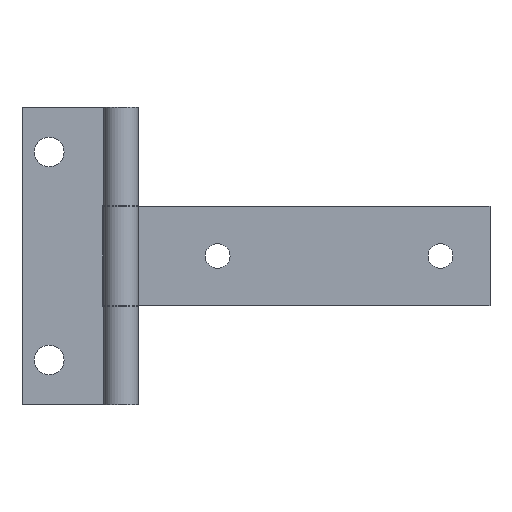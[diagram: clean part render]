
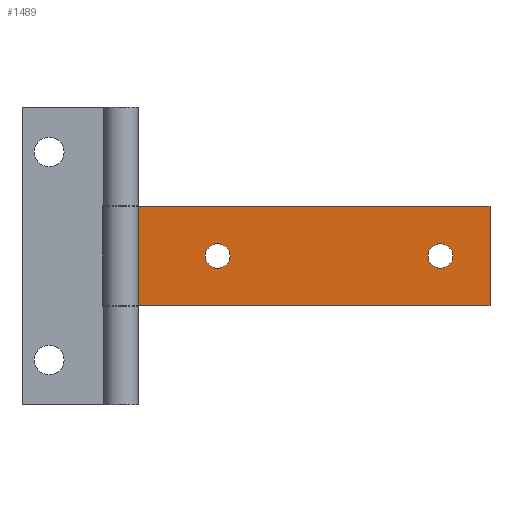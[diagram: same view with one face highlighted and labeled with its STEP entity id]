
A CAD part, front view. The second image highlights one B-rep face of the part: STEP entity #1489.
In plain terms, the highlighted planar face has unit normal (0, -1, 0).
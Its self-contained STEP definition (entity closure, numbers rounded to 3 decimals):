
#1091=CARTESIAN_POINT('',(31.5,2.,0.));
#1092=VERTEX_POINT('',#1091);
#1101=CARTESIAN_POINT('',(26.5,2.,0.));
#1102=VERTEX_POINT('',#1101);
#1103=CARTESIAN_POINT('',(29.0,2.,0.));
#1104=DIRECTION('',(0.0,1.0,0.0));
#1105=DIRECTION('',(1.0,0.0,0.0));
#1106=AXIS2_PLACEMENT_3D('',#1103,#1104,#1105);
#1107=CIRCLE('',#1106,2.5);
#1108=EDGE_CURVE('',#1102,#1092,#1107,.T.);
#1133=CARTESIAN_POINT('',(-13.5,2.,0.0));
#1134=VERTEX_POINT('',#1133);
#1143=CARTESIAN_POINT('',(-18.5,2.,0.));
#1144=VERTEX_POINT('',#1143);
#1145=CARTESIAN_POINT('',(-16.0,2.,0.0));
#1146=DIRECTION('',(0.0,1.0,0.0));
#1147=DIRECTION('',(1.0,0.0,0.0));
#1148=AXIS2_PLACEMENT_3D('',#1145,#1146,#1147);
#1149=CIRCLE('',#1148,2.5);
#1150=EDGE_CURVE('',#1144,#1134,#1149,.T.);
#1293=CARTESIAN_POINT('',(-35.5,2.,-10.0));
#1294=VERTEX_POINT('',#1293);
#1302=CARTESIAN_POINT('',(-35.5,2.,10.0));
#1303=VERTEX_POINT('',#1302);
#1304=CARTESIAN_POINT('',(-35.5,2.,10.0));
#1305=DIRECTION('',(0.0,0.0,-1.0));
#1306=VECTOR('',#1305,20.0);
#1307=LINE('',#1304,#1306);
#1308=EDGE_CURVE('',#1303,#1294,#1307,.T.);
#1362=CARTESIAN_POINT('',(-16.0,2.,0.0));
#1363=DIRECTION('',(0.0,1.0,0.0));
#1364=DIRECTION('',(1.0,0.0,0.0));
#1365=AXIS2_PLACEMENT_3D('',#1362,#1363,#1364);
#1366=CIRCLE('',#1365,2.5);
#1367=EDGE_CURVE('',#1134,#1144,#1366,.T.);
#1386=CARTESIAN_POINT('',(29.0,2.,0.));
#1387=DIRECTION('',(0.0,1.0,0.0));
#1388=DIRECTION('',(1.0,0.0,0.0));
#1389=AXIS2_PLACEMENT_3D('',#1386,#1387,#1388);
#1390=CIRCLE('',#1389,2.5);
#1391=EDGE_CURVE('',#1092,#1102,#1390,.T.);
#1451=CARTESIAN_POINT('',(-35.5,2.,10.0));
#1452=DIRECTION('',(0.0,-1.0,0.0));
#1453=DIRECTION('',(0.0,0.0,-1.0));
#1454=AXIS2_PLACEMENT_3D('',#1451,#1452,#1453);
#1455=PLANE('',#1454);
#1456=CARTESIAN_POINT('',(39.0,2.,-10.));
#1457=VERTEX_POINT('',#1456);
#1458=CARTESIAN_POINT('',(-35.5,2.,-10.0));
#1459=DIRECTION('',(1.0,0.0,0.0));
#1460=VECTOR('',#1459,74.5);
#1461=LINE('',#1458,#1460);
#1462=EDGE_CURVE('',#1294,#1457,#1461,.T.);
#1463=ORIENTED_EDGE('',*,*,#1462,.T.);
#1464=CARTESIAN_POINT('',(39.0,2.,10.));
#1465=VERTEX_POINT('',#1464);
#1466=CARTESIAN_POINT('',(39.0,2.,10.));
#1467=DIRECTION('',(0.0,0.0,-1.0));
#1468=VECTOR('',#1467,20.);
#1469=LINE('',#1466,#1468);
#1470=EDGE_CURVE('',#1465,#1457,#1469,.T.);
#1471=ORIENTED_EDGE('',*,*,#1470,.F.);
#1472=CARTESIAN_POINT('',(-35.5,2.,10.0));
#1473=DIRECTION('',(1.0,0.0,0.0));
#1474=VECTOR('',#1473,74.5);
#1475=LINE('',#1472,#1474);
#1476=EDGE_CURVE('',#1303,#1465,#1475,.T.);
#1477=ORIENTED_EDGE('',*,*,#1476,.F.);
#1478=ORIENTED_EDGE('',*,*,#1308,.T.);
#1479=EDGE_LOOP('',(#1463,#1471,#1477,#1478));
#1480=FACE_OUTER_BOUND('',#1479,.T.);
#1481=ORIENTED_EDGE('',*,*,#1367,.T.);
#1482=ORIENTED_EDGE('',*,*,#1150,.T.);
#1483=EDGE_LOOP('',(#1481,#1482));
#1484=FACE_BOUND('',#1483,.T.);
#1485=ORIENTED_EDGE('',*,*,#1391,.T.);
#1486=ORIENTED_EDGE('',*,*,#1108,.T.);
#1487=EDGE_LOOP('',(#1485,#1486));
#1488=FACE_BOUND('',#1487,.T.);
#1489=ADVANCED_FACE('',(#1480,#1484,#1488),#1455,.T.);
